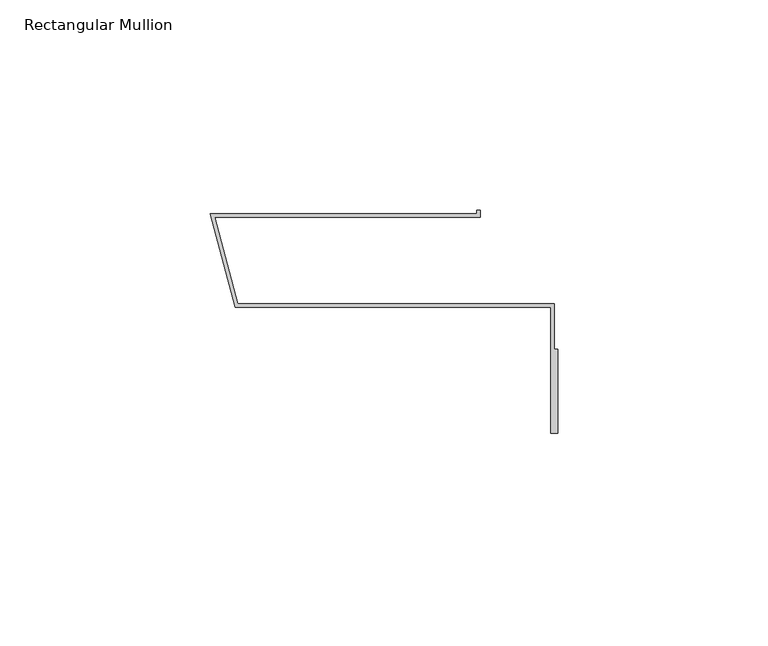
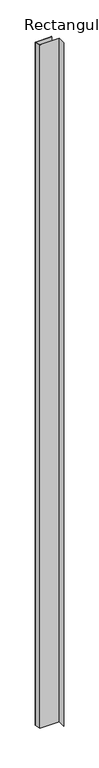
"""IFC4 building model written with IfcOpenShell, lengths in millimetres: member geometry, Rectangular Mullion : TI-V-05_01_Internal corner i L."""

from ifc_helpers import new_model, si_unit, frame, origin, place, context, project, spatial, polyline, outline, extrude, source, transform, mapped, element, save


def rectangular_mullion_68cac8b4(model_context):
    return source(origin(), model_context, "Body", "SweptSolid", [
        extrude(outline(polyline([(-1.6, -23.0), (-76.6, -23.0), (-82.5484721, -0.8), (-19.2, -0.8), (-19.2, 0.0), (-18.4, 0.0), (-18.4, -1.6), (-81.5058918, -1.6), (-75.9861384, -22.2), (-0.8, -22.2), (-0.8, -33.0), (0.0, -33.0), (0.0, -53.0), (-1.6, -53.0), (-1.6, -23.0)])), frame((0.0, 0.0, -2815.6264372), z_axis=(0.0, 0.0, 1.0), x_axis=(1.0, 0.0, 0.0)), (0.0, 0.0, 1.0), 2815.6264372),
    ])


if __name__ == "__main__":
    model = new_model("IFC4")
    model_context = context("Model", 3, world=origin())
    ifc_project = project(units=[si_unit("LENGTHUNIT", "METRE", prefix="MILLI")], contexts=[model_context])
    site = spatial("IfcSite", under=ifc_project)
    building = spatial("IfcBuilding", under=site)
    placement = place(None, origin())
    rectangular_mullion_shape = rectangular_mullion_68cac8b4(model_context)
    element("IfcMember", 1, ObjectType="Rectangular Mullion : TI-V-05_01_Internal corner i L", at=placement, inside=building, context=model_context, shape_type="MappedRepresentation", body=[
        mapped(rectangular_mullion_shape, transform((0.0, 0.0, 0.0), x_axis=(1.0, 0.0, 0.0), y_axis=(0.0, 1.0, 0.0), z_axis=(0.0, 0.0, 1.0))),
    ])
    save(model, "model.ifc")
